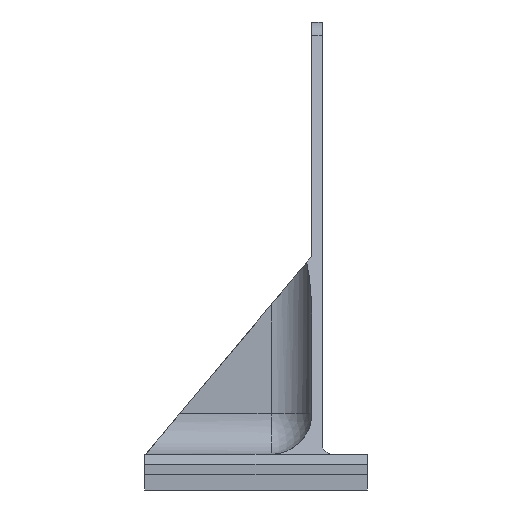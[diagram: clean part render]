
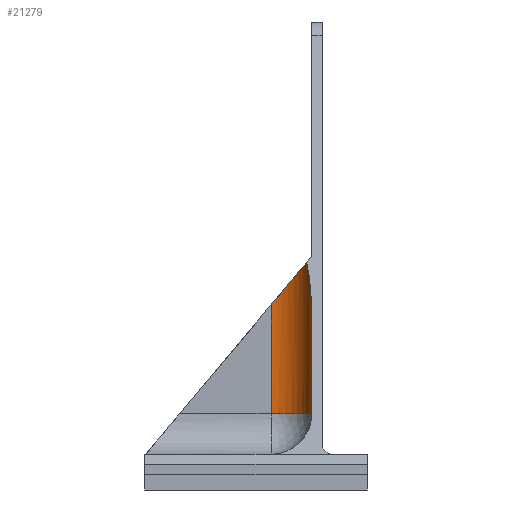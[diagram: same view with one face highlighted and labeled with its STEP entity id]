
A CAD part, left-side view. The second image highlights one B-rep face of the part: STEP entity #21279.
In plain terms, the highlighted cylindrical face has radius 8 mm (diameter 16 mm), a partial arc.
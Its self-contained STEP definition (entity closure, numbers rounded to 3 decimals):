
#652=ELLIPSE('',#22364,24.569,8.);
#665=ELLIPSE('',#22401,12.446,8.);
#1640=FACE_OUTER_BOUND('',#2708,.T.);
#2708=EDGE_LOOP('',(#15163,#15164,#15165,#15166,#15167));
#4176=LINE('',#28852,#6975);
#4177=LINE('',#28855,#6976);
#6975=VECTOR('',#23679,10.);
#6976=VECTOR('',#23682,10.);
#9694=CIRCLE('',#22402,8.);
#9769=VERTEX_POINT('',#28496);
#9770=VERTEX_POINT('',#28498);
#9893=VERTEX_POINT('',#28849);
#9894=VERTEX_POINT('',#28851);
#9895=VERTEX_POINT('',#28853);
#11857=EDGE_CURVE('',#9770,#9769,#652,.T.);
#11992=EDGE_CURVE('',#9893,#9769,#665,.F.);
#11993=EDGE_CURVE('',#9893,#9894,#4176,.T.);
#11994=EDGE_CURVE('',#9894,#9895,#9694,.T.);
#11995=EDGE_CURVE('',#9895,#9770,#4177,.T.);
#15163=ORIENTED_EDGE('',*,*,#11857,.T.);
#15164=ORIENTED_EDGE('',*,*,#11992,.F.);
#15165=ORIENTED_EDGE('',*,*,#11993,.T.);
#15166=ORIENTED_EDGE('',*,*,#11994,.T.);
#15167=ORIENTED_EDGE('',*,*,#11995,.T.);
#21238=CYLINDRICAL_SURFACE('',#22400,8.);
#21279=ADVANCED_FACE('',(#1640),#21238,.F.);
#22364=AXIS2_PLACEMENT_3D('',#28499,#23499,#23500);
#22400=AXIS2_PLACEMENT_3D('',#28848,#23675,#23676);
#22401=AXIS2_PLACEMENT_3D('',#28850,#23677,#23678);
#22402=AXIS2_PLACEMENT_3D('',#28854,#23680,#23681);
#23499=DIRECTION('center_axis',(-0.946,0.,
0.326));
#23500=DIRECTION('ref_axis',(0.326,0.,0.946));
#23675=DIRECTION('center_axis',(0.,0.,-1.));
#23676=DIRECTION('ref_axis',(0.707,-0.707,0.));
#23677=DIRECTION('center_axis',(0.,0.766,0.643));
#23678=DIRECTION('ref_axis',(0.,-0.643,0.766));
#23679=DIRECTION('',(0.,0.,-1.));
#23680=DIRECTION('center_axis',(0.,0.,-1.));
#23681=DIRECTION('ref_axis',(1.,0.,0.));
#23682=DIRECTION('',(0.,0.,1.));
#28496=CARTESIAN_POINT('',(18.698,11.84,44.639));
#28498=CARTESIAN_POINT('',(14.843,10.85,33.446));
#28499=CARTESIAN_POINT('Origin',(14.843,18.85,33.446));
#28848=CARTESIAN_POINT('Origin',(14.843,18.85,24.264));
#28849=CARTESIAN_POINT('',(22.843,18.85,36.284));
#28850=CARTESIAN_POINT('Origin',(14.843,18.85,36.284));
#28851=CARTESIAN_POINT('',(22.843,18.85,14.945));
#28852=CARTESIAN_POINT('',(22.843,18.85,24.264));
#28853=CARTESIAN_POINT('',(14.843,10.85,14.945));
#28854=CARTESIAN_POINT('Origin',(14.843,18.85,14.945));
#28855=CARTESIAN_POINT('',(14.843,10.85,24.264));
